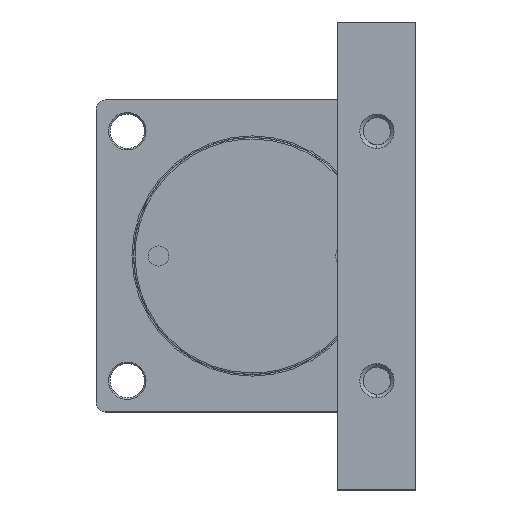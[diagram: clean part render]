
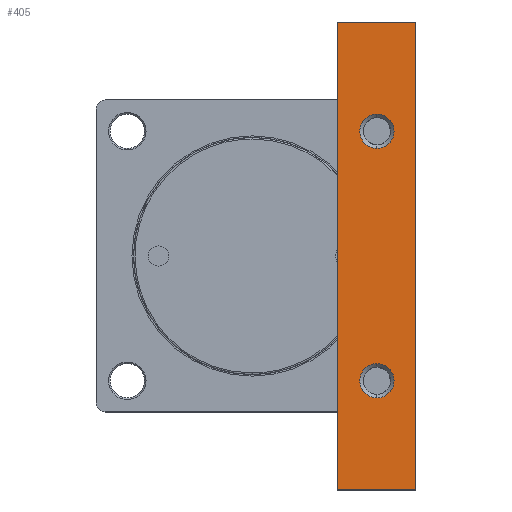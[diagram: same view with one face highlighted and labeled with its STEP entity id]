
A CAD part, left-side view. The second image highlights one B-rep face of the part: STEP entity #405.
In plain terms, the highlighted planar face has unit normal (1, 0, 0).
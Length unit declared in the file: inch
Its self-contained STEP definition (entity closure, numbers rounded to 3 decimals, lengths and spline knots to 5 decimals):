
#201 = ORIENTED_EDGE ( 'NONE', *, *, #3098, .T. ) ;
#244 = ORIENTED_EDGE ( 'NONE', *, *, #261, .T. ) ;
#261 = EDGE_CURVE ( 'NONE', #8489, #6363, #4788, .T. ) ;
#391 = EDGE_CURVE ( 'NONE', #12012, #14763, #2012, .T. ) ;
#405 = ADVANCED_FACE ( 'NONE', ( #1693, #1679, #2001 ), #8082, .T. ) ;
#449 = DIRECTION ( 'NONE',  ( 0., 1., 0. ) ) ;
#605 = CARTESIAN_POINT ( 'NONE',  ( -3.3622, -4.13386, -5.90551 ) ) ;
#996 = LINE ( 'NONE', #605, #5296 ) ;
#1010 = VERTEX_POINT ( 'NONE', #10986 ) ;
#1439 = ORIENTED_EDGE ( 'NONE', *, *, #14566, .T. ) ;
#1679 = FACE_BOUND ( 'NONE', #2386, .T. ) ;
#1693 = FACE_OUTER_BOUND ( 'NONE', #8308, .T. ) ;
#1944 = VECTOR ( 'NONE', #6639, 39.37008 ) ;
#1945 = AXIS2_PLACEMENT_3D ( 'NONE', #12075, #12090, #12112 ) ;
#2001 = FACE_BOUND ( 'NONE', #3876, .T. ) ;
#2012 = CIRCLE ( 'NONE', #2340, 0.43307 ) ;
#2263 = CARTESIAN_POINT ( 'NONE',  ( -3.3622, -2.16535, 5.90551 ) ) ;
#2340 = AXIS2_PLACEMENT_3D ( 'NONE', #8729, #8766, #8781 ) ;
#2386 = EDGE_LOOP ( 'NONE', ( #201, #244 ) ) ;
#2570 = AXIS2_PLACEMENT_3D ( 'NONE', #12029, #8873, #8968 ) ;
#2854 = CARTESIAN_POINT ( 'NONE',  ( -3.3622, -3.14961, -2.71654 ) ) ;
#3098 = EDGE_CURVE ( 'NONE', #6363, #8489, #13317, .T. ) ;
#3155 = EDGE_CURVE ( 'NONE', #1010, #13011, #13141, .T. ) ;
#3638 = DIRECTION ( 'NONE',  ( 0., 0., 1. ) ) ;
#3656 = DIRECTION ( 'NONE',  ( -1., 0., 0. ) ) ;
#3674 = CARTESIAN_POINT ( 'NONE',  ( -3.3622, -3.14961, -3.14961 ) ) ;
#3847 = LINE ( 'NONE', #6786, #1944 ) ;
#3850 = ORIENTED_EDGE ( 'NONE', *, *, #391, .T. ) ;
#3876 = EDGE_LOOP ( 'NONE', ( #1439, #3850 ) ) ;
#4042 = ORIENTED_EDGE ( 'NONE', *, *, #13279, .T. ) ;
#4149 = CARTESIAN_POINT ( 'NONE',  ( -3.3622, -4.13386, -5.90551 ) ) ;
#4410 = ORIENTED_EDGE ( 'NONE', *, *, #12825, .T. ) ;
#4782 = ORIENTED_EDGE ( 'NONE', *, *, #14155, .T. ) ;
#4788 = CIRCLE ( 'NONE', #1945, 0.43307 ) ;
#5002 = CIRCLE ( 'NONE', #8946, 0.43307 ) ;
#5296 = VECTOR ( 'NONE', #449, 39.37008 ) ;
#5372 = ORIENTED_EDGE ( 'NONE', *, *, #3155, .T. ) ;
#6296 = CARTESIAN_POINT ( 'NONE',  ( -3.3622, -3.14961, 3.14961 ) ) ;
#6363 = VERTEX_POINT ( 'NONE', #10903 ) ;
#6477 = DIRECTION ( 'NONE',  ( 0., 0., 1. ) ) ;
#6639 = DIRECTION ( 'NONE',  ( 0., 0., -1. ) ) ;
#6786 = CARTESIAN_POINT ( 'NONE',  ( -3.3622, -4.13386, 5.90551 ) ) ;
#8082 = PLANE ( 'NONE',  #2570 ) ;
#8160 = DIRECTION ( 'NONE',  ( 0., 0., 1. ) ) ;
#8308 = EDGE_LOOP ( 'NONE', ( #5372, #4782, #4410, #4042 ) ) ;
#8489 = VERTEX_POINT ( 'NONE', #12696 ) ;
#8624 = VECTOR ( 'NONE', #12793, 39.37008 ) ;
#8729 = CARTESIAN_POINT ( 'NONE',  ( -3.3622, -3.14961, -3.14961 ) ) ;
#8766 = DIRECTION ( 'NONE',  ( -1., 0., 0. ) ) ;
#8781 = DIRECTION ( 'NONE',  ( 0., 0., 1. ) ) ;
#8805 = LINE ( 'NONE', #13132, #8624 ) ;
#8873 = DIRECTION ( 'NONE',  ( 1., 0., 0. ) ) ;
#8946 = AXIS2_PLACEMENT_3D ( 'NONE', #3674, #3656, #3638 ) ;
#8968 = DIRECTION ( 'NONE',  ( 0., 0., -1. ) ) ;
#9626 = AXIS2_PLACEMENT_3D ( 'NONE', #6296, #9744, #8160 ) ;
#9744 = DIRECTION ( 'NONE',  ( -1., 0., 0. ) ) ;
#10390 = VERTEX_POINT ( 'NONE', #4149 ) ;
#10756 = CARTESIAN_POINT ( 'NONE',  ( -3.3622, -3.14961, -3.58268 ) ) ;
#10903 = CARTESIAN_POINT ( 'NONE',  ( -3.3622, -3.14961, 3.58268 ) ) ;
#10986 = CARTESIAN_POINT ( 'NONE',  ( -3.3622, -2.16535, -5.90551 ) ) ;
#12012 = VERTEX_POINT ( 'NONE', #10756 ) ;
#12029 = CARTESIAN_POINT ( 'NONE',  ( -3.3622, -4.13386, 5.90551 ) ) ;
#12075 = CARTESIAN_POINT ( 'NONE',  ( -3.3622, -3.14961, 3.14961 ) ) ;
#12090 = DIRECTION ( 'NONE',  ( -1., 0., 0. ) ) ;
#12112 = DIRECTION ( 'NONE',  ( 0., 0., 1. ) ) ;
#12242 = CARTESIAN_POINT ( 'NONE',  ( -3.3622, -4.13386, 5.90551 ) ) ;
#12696 = CARTESIAN_POINT ( 'NONE',  ( -3.3622, -3.14961, 2.71654 ) ) ;
#12793 = DIRECTION ( 'NONE',  ( 0., -1., 0. ) ) ;
#12825 = EDGE_CURVE ( 'NONE', #14202, #10390, #3847, .T. ) ;
#13011 = VERTEX_POINT ( 'NONE', #2263 ) ;
#13107 = VECTOR ( 'NONE', #6477, 39.37008 ) ;
#13132 = CARTESIAN_POINT ( 'NONE',  ( -3.3622, -4.13386, 5.90551 ) ) ;
#13141 = LINE ( 'NONE', #14714, #13107 ) ;
#13279 = EDGE_CURVE ( 'NONE', #10390, #1010, #996, .T. ) ;
#13317 = CIRCLE ( 'NONE', #9626, 0.43307 ) ;
#14155 = EDGE_CURVE ( 'NONE', #13011, #14202, #8805, .T. ) ;
#14202 = VERTEX_POINT ( 'NONE', #12242 ) ;
#14566 = EDGE_CURVE ( 'NONE', #14763, #12012, #5002, .T. ) ;
#14714 = CARTESIAN_POINT ( 'NONE',  ( -3.3622, -2.16535, 5.90551 ) ) ;
#14763 = VERTEX_POINT ( 'NONE', #2854 ) ;
